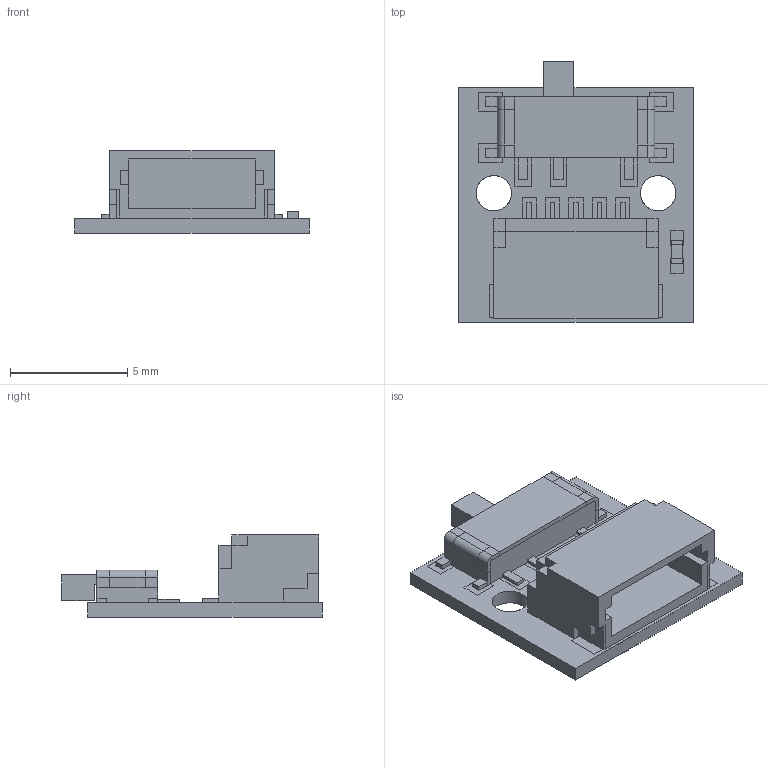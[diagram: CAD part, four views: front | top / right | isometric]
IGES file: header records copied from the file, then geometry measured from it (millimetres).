
Global section: file name: Filename.iges; native system: Open CASCADE 7.4; preprocessor: Open CASCADE IGES processor 7.4; date: 20200730.134431; units: millimetre
Bounding box: 10 x 11.1 x 3.5 mm (x, y, z)
Surface area: 936 mm2 (no closed solid volume)
Topology: 0 solids, 0 shells, 506 faces, 2354 edges, 2334 vertices
Faces by surface type: plane 482, revolution 24
